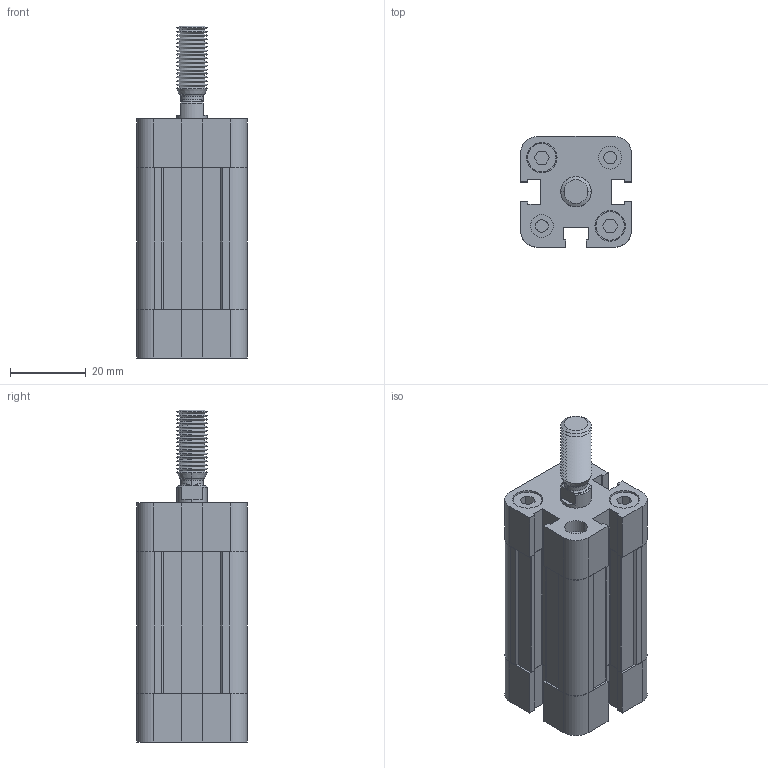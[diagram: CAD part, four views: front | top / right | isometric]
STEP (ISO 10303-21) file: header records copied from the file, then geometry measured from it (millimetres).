
FILE_DESCRIPTION (( 'STEP AP203' ), '1' );
FILE_NAME ('NSKU016.0025 M.STEP', '2010-03-19T14:41:49', ( 'Vesta Automation srl' ), ( 'Vesta Automation srl' ), 'SwSTEP 2.0', 'SolidWorks 2009', '' );
FILE_SCHEMA (( 'CONFIG_CONTROL_DESIGN' ));
Length unit declared in the file: millimetre
Products named in the file (5): NSKU016.0025 M; FRONT END CAP-NSKU 16; REAR END CAP-NSKU 16; PISTON ROD-NSKU 016 M_STROKE 0025; BARREL-NSKU16_STROKE 0025
Assembly tree (4 placements, depth 2):
  NSKU016.0025 M
    PISTON ROD-NSKU 016 M_STROKE 0025
    FRONT END CAP-NSKU 16
    BARREL-NSKU16_STROKE 0025
    REAR END CAP-NSKU 16
Bounding box: 29.2 x 29.2 x 87.5 mm (x, y, z)
Volume: 40655.1 mm3; surface area: 21406.3 mm2
Topology: 5 solids, 5 shells, 588 faces, 1461 edges, 906 vertices
Faces by surface type: plane 283, cylinder 179, cone 118, torus 4, bspline 4
Entity records: 18054 total; most frequent: CARTESIAN_POINT 3282, DIRECTION 3051, ORIENTED_EDGE 2914, EDGE_CURVE 1457, VECTOR 1029, LINE 1029, AXIS2_PLACEMENT_3D 1011, VERTEX_POINT 906
